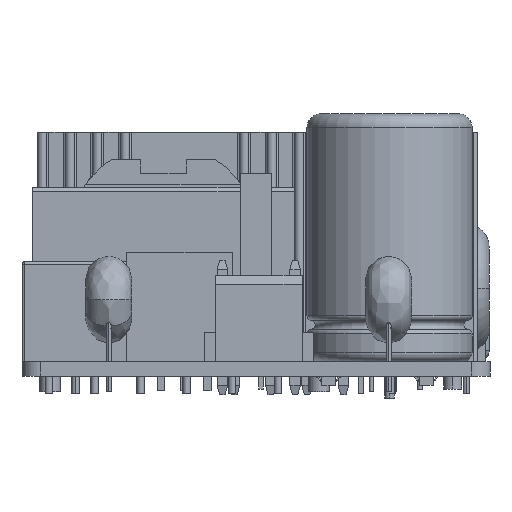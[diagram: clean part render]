
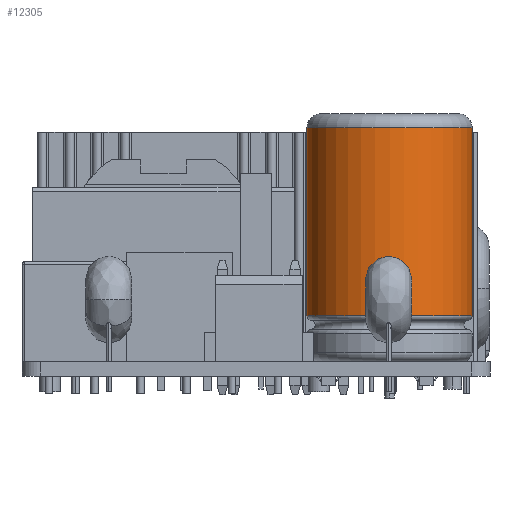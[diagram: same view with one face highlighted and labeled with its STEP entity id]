
A CAD part, left-side view. The second image highlights one B-rep face of the part: STEP entity #12305.
In plain terms, the highlighted cylindrical face has radius 9 mm (diameter 18 mm), a partial arc.
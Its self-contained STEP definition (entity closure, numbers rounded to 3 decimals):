
#11891=DIRECTION('',(0.,0.,1.));
#11892=VECTOR('',#11891,20.518);
#11893=CARTESIAN_POINT('',(20.9,1.95,6.582));
#11894=LINE('',#11893,#11892);
#11919=CARTESIAN_POINT('',(20.9,10.95,6.582));
#11920=DIRECTION('',(0.,0.,-1.));
#11921=DIRECTION('',(-1.,0.,0.));
#11922=AXIS2_PLACEMENT_3D('',#11919,#11920,#11921);
#11924=DIRECTION('',(0.,0.,1.));
#11925=VECTOR('',#11924,20.518);
#11926=CARTESIAN_POINT('',(20.9,19.95,6.582));
#11927=LINE('',#11926,#11925);
#11928=CARTESIAN_POINT('',(20.9,10.95,27.1));
#11929=DIRECTION('',(0.,0.,1.));
#11930=DIRECTION('',(0.,1.,0.));
#11931=AXIS2_PLACEMENT_3D('',#11928,#11929,#11930);
#11933=CARTESIAN_POINT('',(20.9,10.95,6.582));
#11934=DIRECTION('',(0.,0.,-1.));
#11935=DIRECTION('',(0.,-1.,0.));
#11936=AXIS2_PLACEMENT_3D('',#11933,#11934,#11935);
#12150=CARTESIAN_POINT('',(20.9,1.95,27.1));
#12151=CARTESIAN_POINT('',(20.9,19.95,27.1));
#12152=VERTEX_POINT('',#12150);
#12153=VERTEX_POINT('',#12151);
#12190=CARTESIAN_POINT('',(20.9,19.95,6.582));
#12192=VERTEX_POINT('',#12190);
#12196=CARTESIAN_POINT('',(20.9,1.95,6.582));
#12197=VERTEX_POINT('',#12196);
#12200=CARTESIAN_POINT('',(11.9,10.95,6.582));
#12201=VERTEX_POINT('',#12200);
#12290=CARTESIAN_POINT('',(20.9,10.95,1.6));
#12291=DIRECTION('',(0.,0.,1.));
#12292=DIRECTION('',(0.,-1.,0.));
#12293=AXIS2_PLACEMENT_3D('',#12290,#12291,#12292);
#12294=CYLINDRICAL_SURFACE('',#12293,9.);
#12296=ORIENTED_EDGE('',*,*,#12295,.T.);
#12297=ORIENTED_EDGE('',*,*,#12269,.T.);
#12299=ORIENTED_EDGE('',*,*,#12298,.T.);
#12300=ORIENTED_EDGE('',*,*,#12265,.F.);
#12302=ORIENTED_EDGE('',*,*,#12301,.T.);
#12303=EDGE_LOOP('',(#12296,#12297,#12299,#12300,#12302));
#12304=FACE_OUTER_BOUND('',#12303,.F.);
#12305=ADVANCED_FACE('',(#12304),#12294,.T.);
#11923=CIRCLE('',#11922,9.);
#11932=CIRCLE('',#11931,9.);
#11937=CIRCLE('',#11936,9.);
#12265=EDGE_CURVE('',#12197,#12152,#11894,.T.);
#12269=EDGE_CURVE('',#12192,#12153,#11927,.T.);
#12295=EDGE_CURVE('',#12201,#12192,#11923,.T.);
#12298=EDGE_CURVE('',#12153,#12152,#11932,.T.);
#12301=EDGE_CURVE('',#12197,#12201,#11937,.T.);
